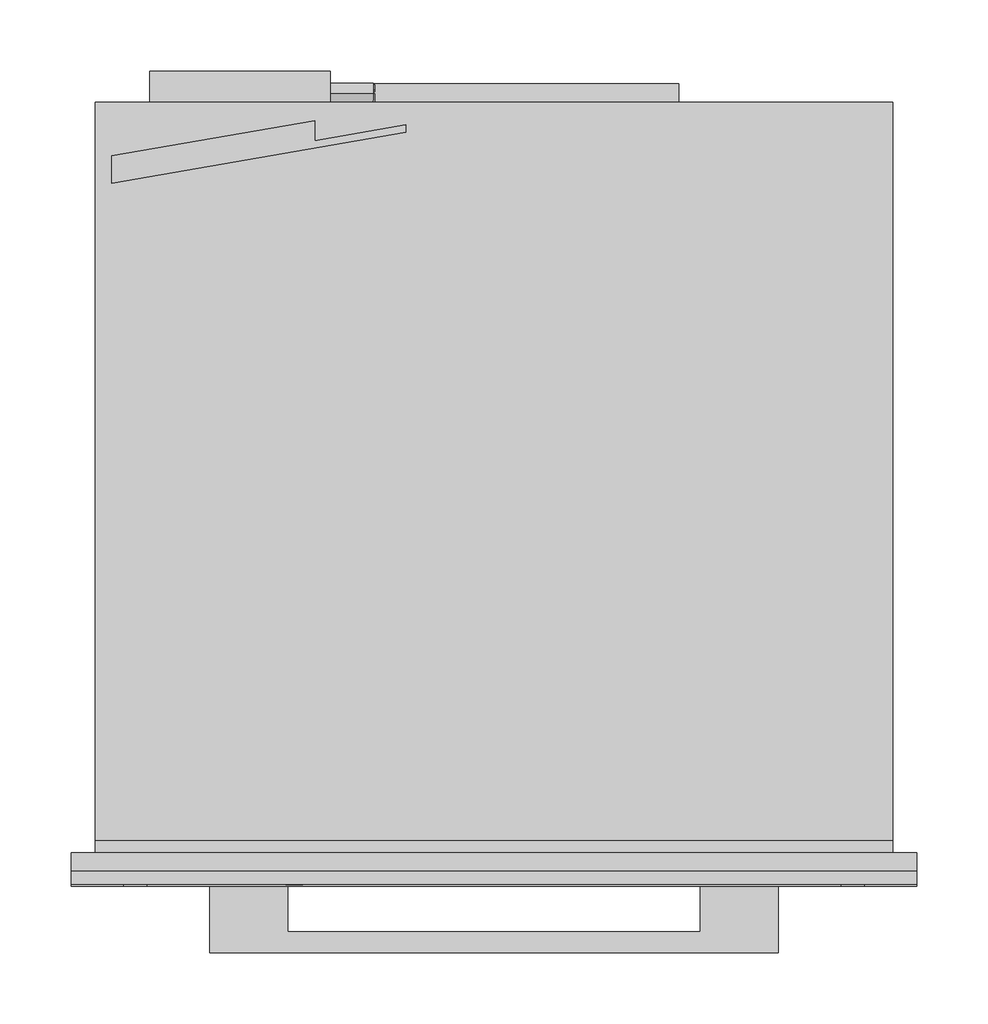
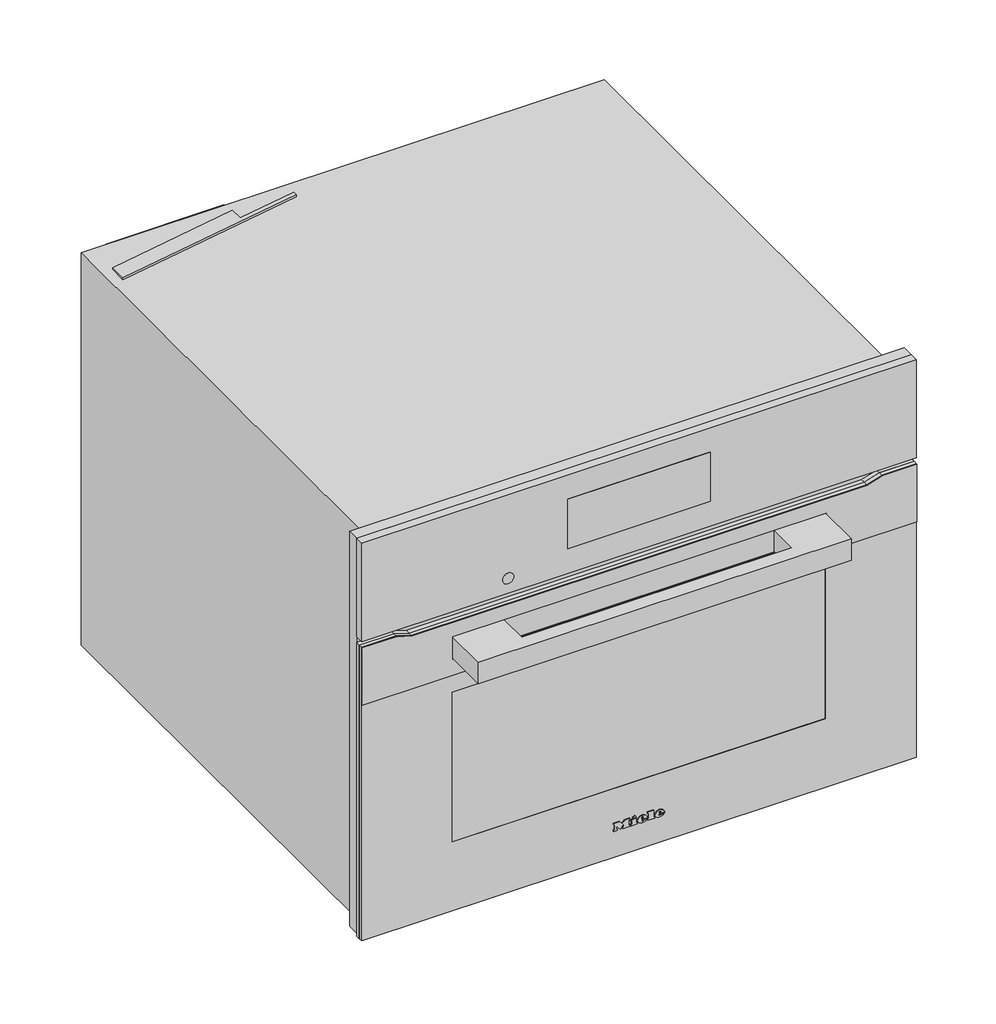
# Not in any storey: 1 proxy.
"""IFC4 building model written with IfcOpenShell, lengths in millimetres."""

from ifc_helpers import new_model, si_unit, origin, place, context, project, spatial, transform, mapped, element, save
from components import specialty_equipment_f90ddcf8

model = new_model("IFC4")

# Units and contexts
model_context = context("Model", 3, world=origin())
ifc_project = project(units=[si_unit("LENGTHUNIT", "METRE", prefix="MILLI")], contexts=[model_context])

# Site, building
site = spatial("IfcSite", under=ifc_project)
building = spatial("IfcBuilding", under=site)

# Proxy
placement = place(None, origin())
specialty_equipment_shape = specialty_equipment_f90ddcf8(model_context)
element("IfcBuildingElementProxy", 1, Name="11804640_USA_H7840BM_EDST-CLST : 22784046_USA_11804640_H7840BM_EDST-CLST", ObjectType="11804640_USA_H7840BM_EDST-CLST : 22784046_USA_11804640_H7840BM_EDST-CLST", at=placement, inside=building, context=model_context, shape_type="MappedRepresentation", body=[
    mapped(specialty_equipment_shape, transform((0.0, 0.0, 0.0), x_axis=(1.0, 0.0, 0.0), y_axis=(0.0, 1.0, 0.0), z_axis=(0.0, 0.0, 1.0))),
])

save(model, "model.ifc")
